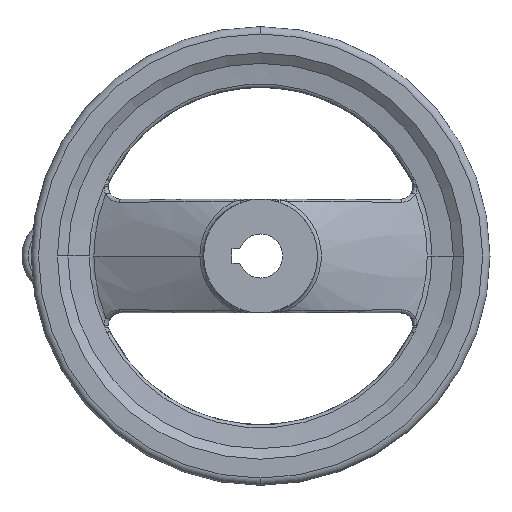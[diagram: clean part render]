
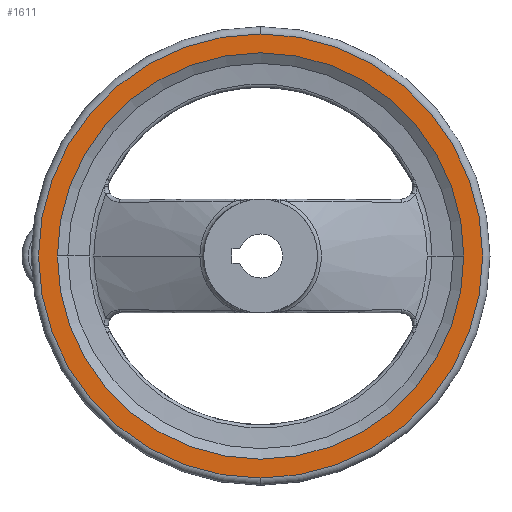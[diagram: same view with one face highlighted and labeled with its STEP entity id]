
A CAD part, left-side view. The second image highlights one B-rep face of the part: STEP entity #1611.
In plain terms, the highlighted planar face has unit normal (-1, 0, 0).
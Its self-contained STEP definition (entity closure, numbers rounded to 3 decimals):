
#40 = ORIENTED_EDGE ( 'NONE', *, *, #3329, .T. ) ;
#98 = DIRECTION ( 'NONE',  ( -1., 0., 0. ) ) ;
#99 = DIRECTION ( 'NONE',  ( 0., 0., 1. ) ) ;
#150 = DIRECTION ( 'NONE',  ( -1., 0., 0. ) ) ;
#220 = PLANE ( 'NONE',  #331 ) ;
#331 = AXIS2_PLACEMENT_3D ( 'NONE', #5371, #5026, #4485 ) ;
#809 = CARTESIAN_POINT ( 'NONE',  ( 20., 0., 0. ) ) ;
#814 = VERTEX_POINT ( 'NONE', #4399 ) ;
#841 = CIRCLE ( 'NONE', #4175, 55.356 ) ;
#964 = CARTESIAN_POINT ( 'NONE',  ( 20., 0., 0. ) ) ;
#1058 = EDGE_CURVE ( 'NONE', #2450, #814, #841, .T. ) ;
#1080 = DIRECTION ( 'NONE',  ( -1., 0., 0. ) ) ;
#1236 = ORIENTED_EDGE ( 'NONE', *, *, #3800, .F. ) ;
#1407 = DIRECTION ( 'NONE',  ( 0., 0., 1. ) ) ;
#1611 = ADVANCED_FACE ( 'NONE', ( #5336, #4945 ), #220, .T. ) ;
#1698 = CARTESIAN_POINT ( 'NONE',  ( 20., 0., 60.5 ) ) ;
#2385 = CARTESIAN_POINT ( 'NONE',  ( 20., 0., 0. ) ) ;
#2405 = CARTESIAN_POINT ( 'NONE',  ( 20., 55.356, 0. ) ) ;
#2450 = VERTEX_POINT ( 'NONE', #2405 ) ;
#2776 = EDGE_LOOP ( 'NONE', ( #40, #3961 ) ) ;
#2805 = CIRCLE ( 'NONE', #3168, 55.356 ) ;
#3145 = CARTESIAN_POINT ( 'NONE',  ( 20., 0., -60.5 ) ) ;
#3163 = CARTESIAN_POINT ( 'NONE',  ( 20., 0., 0. ) ) ;
#3168 = AXIS2_PLACEMENT_3D ( 'NONE', #2385, #1080, #3662 ) ;
#3292 = AXIS2_PLACEMENT_3D ( 'NONE', #3163, #150, #1407 ) ;
#3329 = EDGE_CURVE ( 'NONE', #5532, #4364, #3836, .T. ) ;
#3628 = CIRCLE ( 'NONE', #4247, 60.5 ) ;
#3662 = DIRECTION ( 'NONE',  ( 0., 0., 1. ) ) ;
#3796 = DIRECTION ( 'NONE',  ( 0., 0., 1. ) ) ;
#3800 = EDGE_CURVE ( 'NONE', #814, #2450, #2805, .T. ) ;
#3830 = ORIENTED_EDGE ( 'NONE', *, *, #1058, .F. ) ;
#3836 = CIRCLE ( 'NONE', #3292, 60.5 ) ;
#3908 = DIRECTION ( 'NONE',  ( -1., 0., 0. ) ) ;
#3961 = ORIENTED_EDGE ( 'NONE', *, *, #4729, .T. ) ;
#4175 = AXIS2_PLACEMENT_3D ( 'NONE', #809, #98, #3796 ) ;
#4247 = AXIS2_PLACEMENT_3D ( 'NONE', #964, #3908, #99 ) ;
#4364 = VERTEX_POINT ( 'NONE', #3145 ) ;
#4399 = CARTESIAN_POINT ( 'NONE',  ( 20., -55.356, 0. ) ) ;
#4485 = DIRECTION ( 'NONE',  ( 0., 0., 1. ) ) ;
#4729 = EDGE_CURVE ( 'NONE', #4364, #5532, #3628, .T. ) ;
#4945 = FACE_BOUND ( 'NONE', #5320, .T. ) ;
#5026 = DIRECTION ( 'NONE',  ( -1., 0., 0. ) ) ;
#5320 = EDGE_LOOP ( 'NONE', ( #1236, #3830 ) ) ;
#5336 = FACE_OUTER_BOUND ( 'NONE', #2776, .T. ) ;
#5371 = CARTESIAN_POINT ( 'NONE',  ( 20., 62.5, 0. ) ) ;
#5532 = VERTEX_POINT ( 'NONE', #1698 ) ;
